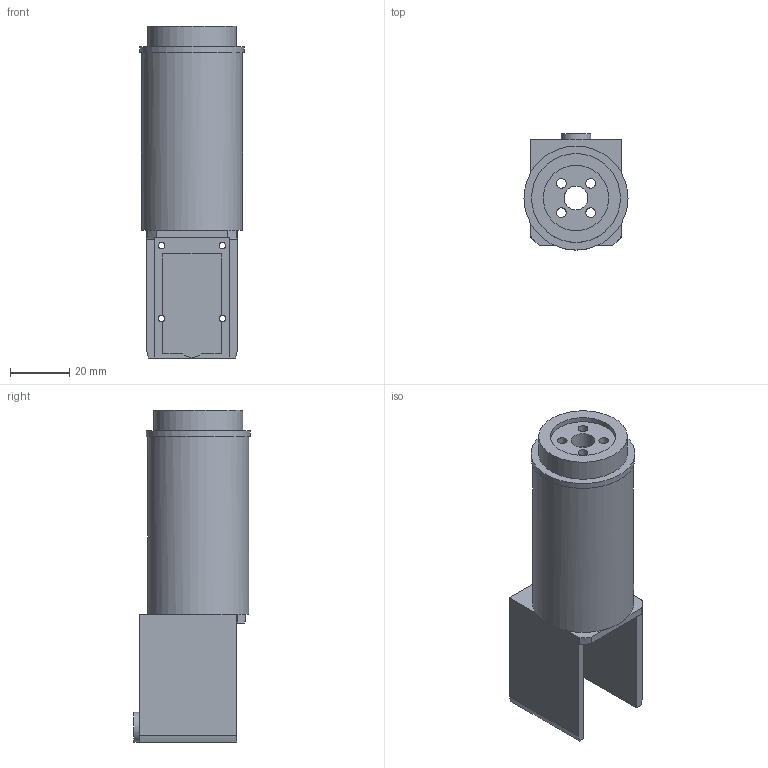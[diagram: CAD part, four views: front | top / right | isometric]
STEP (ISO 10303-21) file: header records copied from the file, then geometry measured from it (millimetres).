
FILE_DESCRIPTION(('Open CASCADE Model'),'2;1');
FILE_NAME('Open CASCADE Shape Model','2026-10-02T23:27:38',('Author'),( 'Open CASCADE'),'Open CASCADE STEP processor 7.9','Open CASCADE 7.9' ,'Unknown');
FILE_SCHEMA(('AUTOMOTIVE_DESIGN { 1 0 10303 214 1 1 1 1 }'));
Length unit declared in the file: millimetre
Products named in the file (1): Open CASCADE STEP translator 7.9 5
Bounding box: 35 x 39.25 x 111.7 mm (x, y, z)
Volume: 31413 mm3; surface area: 24546.3 mm2
Topology: 1 solids, 1 shells, 89 faces, 222 edges, 143 vertices
Faces by surface type: plane 54, cylinder 35
Full cylindrical faces by diameter (mm): 2.2 x4, 3.3 x4, 4.4 x4, 5.6 x1, 8 x1, 10 x1, 22 x1, 29.2 x1, 29.9 x1, 34 x1, 35 x1
Entity records: 5759 total; most frequent: CARTESIAN_POINT 1328, DIRECTION 827, ORIENTED_EDGE 444, PCURVE 444, DEFINITIONAL_REPRESENTATION 444, LINE 437, VECTOR 437, EDGE_CURVE 222
